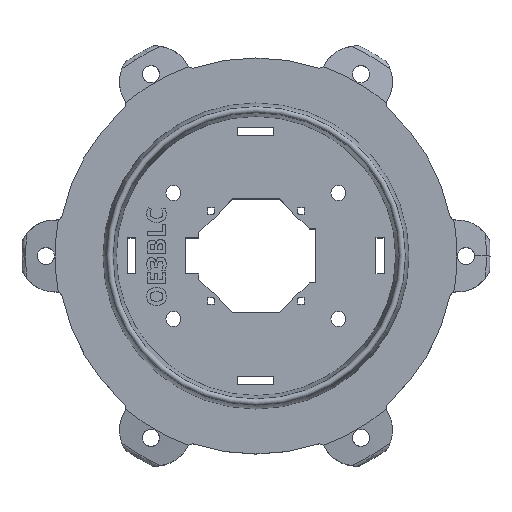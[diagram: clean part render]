
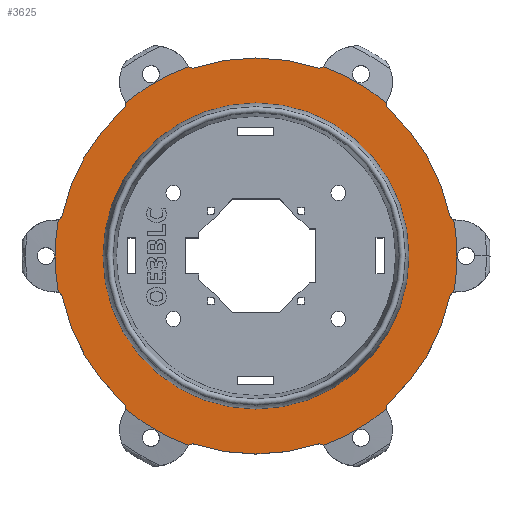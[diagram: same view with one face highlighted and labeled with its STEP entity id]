
A CAD part, top view. The second image highlights one B-rep face of the part: STEP entity #3625.
In plain terms, the highlighted planar face has unit normal (0, 0, 1).
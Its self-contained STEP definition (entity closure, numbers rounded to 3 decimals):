
#829 = EDGE_CURVE('',#830,#832,#834,.T.);
#830 = VERTEX_POINT('',#831);
#831 = CARTESIAN_POINT('',(20.532,62.725,4.));
#832 = VERTEX_POINT('',#833);
#833 = CARTESIAN_POINT('',(22.47,63.12,4.));
#834 = CIRCLE('',#835,2.);
#835 = AXIS2_PLACEMENT_3D('',#836,#837,#838);
#836 = CARTESIAN_POINT('',(21.154,64.626,4.));
#837 = DIRECTION('',(-0.,0.,1.));
#838 = DIRECTION('',(1.,0.,0.));
#867 = EDGE_CURVE('',#830,#868,#870,.T.);
#868 = VERTEX_POINT('',#869);
#869 = CARTESIAN_POINT('',(-20.532,62.725,4.));
#870 = CIRCLE('',#871,66.);
#871 = AXIS2_PLACEMENT_3D('',#872,#873,#874);
#872 = CARTESIAN_POINT('',(0.,0.,4.));
#873 = DIRECTION('',(-0.,0.,1.));
#874 = DIRECTION('',(1.,0.,0.));
#895 = VERTEX_POINT('',#896);
#896 = CARTESIAN_POINT('',(-22.47,63.12,4.));
#914 = EDGE_CURVE('',#895,#868,#915,.T.);
#915 = CIRCLE('',#916,2.);
#916 = AXIS2_PLACEMENT_3D('',#917,#918,#919);
#917 = CARTESIAN_POINT('',(-21.154,64.626,4.));
#918 = DIRECTION('',(-0.,0.,1.));
#919 = DIRECTION('',(1.,0.,0.));
#1098 = EDGE_CURVE('',#1099,#1101,#1103,.T.);
#1099 = VERTEX_POINT('',#1100);
#1100 = CARTESIAN_POINT('',(-44.055,49.144,4.));
#1101 = VERTEX_POINT('',#1102);
#1102 = CARTESIAN_POINT('',(-43.428,51.02,4.));
#1103 = CIRCLE('',#1104,2.);
#1104 = AXIS2_PLACEMENT_3D('',#1105,#1106,#1107);
#1105 = CARTESIAN_POINT('',(-45.39,50.633,4.));
#1106 = DIRECTION('',(0.,0.,1.));
#1107 = DIRECTION('',(0.5,0.866,0.));
#1136 = EDGE_CURVE('',#1099,#1137,#1139,.T.);
#1137 = VERTEX_POINT('',#1138);
#1138 = CARTESIAN_POINT('',(-64.588,13.581,4.));
#1139 = CIRCLE('',#1140,66.);
#1140 = AXIS2_PLACEMENT_3D('',#1141,#1142,#1143);
#1141 = CARTESIAN_POINT('',(0.,0.,4.));
#1142 = DIRECTION('',(0.,0.,1.));
#1143 = DIRECTION('',(0.5,0.866,0.));
#1164 = VERTEX_POINT('',#1165);
#1165 = CARTESIAN_POINT('',(-65.898,12.1,4.));
#1183 = EDGE_CURVE('',#1164,#1137,#1184,.T.);
#1184 = CIRCLE('',#1185,2.);
#1185 = AXIS2_PLACEMENT_3D('',#1186,#1187,#1188);
#1186 = CARTESIAN_POINT('',(-66.545,13.993,4.));
#1187 = DIRECTION('',(0.,0.,1.));
#1188 = DIRECTION('',(0.5,0.866,0.));
#1367 = EDGE_CURVE('',#1368,#1370,#1372,.T.);
#1368 = VERTEX_POINT('',#1369);
#1369 = CARTESIAN_POINT('',(-64.588,-13.581,4.));
#1370 = VERTEX_POINT('',#1371);
#1371 = CARTESIAN_POINT('',(-65.898,-12.1,4.));
#1372 = CIRCLE('',#1373,2.);
#1373 = AXIS2_PLACEMENT_3D('',#1374,#1375,#1376);
#1374 = CARTESIAN_POINT('',(-66.545,-13.993,4.));
#1375 = DIRECTION('',(0.,0.,1.));
#1376 = DIRECTION('',(-0.5,0.866,0.));
#1405 = EDGE_CURVE('',#1368,#1406,#1408,.T.);
#1406 = VERTEX_POINT('',#1407);
#1407 = CARTESIAN_POINT('',(-44.055,-49.144,4.));
#1408 = CIRCLE('',#1409,66.);
#1409 = AXIS2_PLACEMENT_3D('',#1410,#1411,#1412);
#1410 = CARTESIAN_POINT('',(0.,0.,4.));
#1411 = DIRECTION('',(0.,0.,1.));
#1412 = DIRECTION('',(-0.5,0.866,0.));
#1433 = VERTEX_POINT('',#1434);
#1434 = CARTESIAN_POINT('',(-43.428,-51.02,4.));
#1452 = EDGE_CURVE('',#1433,#1406,#1453,.T.);
#1453 = CIRCLE('',#1454,2.);
#1454 = AXIS2_PLACEMENT_3D('',#1455,#1456,#1457);
#1455 = CARTESIAN_POINT('',(-45.39,-50.633,4.));
#1456 = DIRECTION('',(0.,0.,1.));
#1457 = DIRECTION('',(-0.5,0.866,0.));
#1636 = EDGE_CURVE('',#1637,#1639,#1641,.T.);
#1637 = VERTEX_POINT('',#1638);
#1638 = CARTESIAN_POINT('',(-20.532,-62.725,4.));
#1639 = VERTEX_POINT('',#1640);
#1640 = CARTESIAN_POINT('',(-22.47,-63.12,4.));
#1641 = CIRCLE('',#1642,2.);
#1642 = AXIS2_PLACEMENT_3D('',#1643,#1644,#1645);
#1643 = CARTESIAN_POINT('',(-21.154,-64.626,4.));
#1644 = DIRECTION('',(0.,0.,1.));
#1645 = DIRECTION('',(-1.,0.,0.));
#1674 = EDGE_CURVE('',#1637,#1675,#1677,.T.);
#1675 = VERTEX_POINT('',#1676);
#1676 = CARTESIAN_POINT('',(20.532,-62.725,4.));
#1677 = CIRCLE('',#1678,66.);
#1678 = AXIS2_PLACEMENT_3D('',#1679,#1680,#1681);
#1679 = CARTESIAN_POINT('',(0.,0.,4.));
#1680 = DIRECTION('',(0.,0.,1.));
#1681 = DIRECTION('',(-1.,0.,0.));
#1702 = VERTEX_POINT('',#1703);
#1703 = CARTESIAN_POINT('',(22.47,-63.12,4.));
#1721 = EDGE_CURVE('',#1702,#1675,#1722,.T.);
#1722 = CIRCLE('',#1723,2.);
#1723 = AXIS2_PLACEMENT_3D('',#1724,#1725,#1726);
#1724 = CARTESIAN_POINT('',(21.154,-64.626,4.));
#1725 = DIRECTION('',(0.,0.,1.));
#1726 = DIRECTION('',(-1.,0.,0.));
#1905 = EDGE_CURVE('',#1906,#1908,#1910,.T.);
#1906 = VERTEX_POINT('',#1907);
#1907 = CARTESIAN_POINT('',(44.055,-49.144,4.));
#1908 = VERTEX_POINT('',#1909);
#1909 = CARTESIAN_POINT('',(43.428,-51.02,4.));
#1910 = CIRCLE('',#1911,2.);
#1911 = AXIS2_PLACEMENT_3D('',#1912,#1913,#1914);
#1912 = CARTESIAN_POINT('',(45.39,-50.633,4.));
#1913 = DIRECTION('',(0.,0.,1.));
#1914 = DIRECTION('',(-0.5,-0.866,0.));
#1943 = EDGE_CURVE('',#1906,#1944,#1946,.T.);
#1944 = VERTEX_POINT('',#1945);
#1945 = CARTESIAN_POINT('',(64.588,-13.581,4.));
#1946 = CIRCLE('',#1947,66.);
#1947 = AXIS2_PLACEMENT_3D('',#1948,#1949,#1950);
#1948 = CARTESIAN_POINT('',(0.,0.,4.));
#1949 = DIRECTION('',(0.,0.,1.));
#1950 = DIRECTION('',(-0.5,-0.866,0.));
#1969 = VERTEX_POINT('',#1970);
#1970 = CARTESIAN_POINT('',(65.898,-12.1,4.));
#1983 = EDGE_CURVE('',#1969,#1944,#1984,.T.);
#1984 = CIRCLE('',#1985,2.);
#1985 = AXIS2_PLACEMENT_3D('',#1986,#1987,#1988);
#1986 = CARTESIAN_POINT('',(66.545,-13.993,4.));
#1987 = DIRECTION('',(0.,0.,1.));
#1988 = DIRECTION('',(-0.5,-0.866,0.));
#1998 = EDGE_CURVE('',#1999,#2001,#2003,.T.);
#1999 = VERTEX_POINT('',#2000);
#2000 = CARTESIAN_POINT('',(64.588,13.581,4.));
#2001 = VERTEX_POINT('',#2002);
#2002 = CARTESIAN_POINT('',(65.898,12.1,4.));
#2003 = CIRCLE('',#2004,2.);
#2004 = AXIS2_PLACEMENT_3D('',#2005,#2006,#2007);
#2005 = CARTESIAN_POINT('',(66.545,13.993,4.));
#2006 = DIRECTION('',(0.,0.,1.));
#2007 = DIRECTION('',(0.5,-0.866,0.));
#2036 = EDGE_CURVE('',#1999,#2037,#2039,.T.);
#2037 = VERTEX_POINT('',#2038);
#2038 = CARTESIAN_POINT('',(44.055,49.144,4.));
#2039 = CIRCLE('',#2040,66.);
#2040 = AXIS2_PLACEMENT_3D('',#2041,#2042,#2043);
#2041 = CARTESIAN_POINT('',(0.,0.,4.));
#2042 = DIRECTION('',(0.,0.,1.));
#2043 = DIRECTION('',(0.5,-0.866,0.));
#2064 = VERTEX_POINT('',#2065);
#2065 = CARTESIAN_POINT('',(43.428,51.02,4.));
#2083 = EDGE_CURVE('',#2064,#2037,#2084,.T.);
#2084 = CIRCLE('',#2085,2.);
#2085 = AXIS2_PLACEMENT_3D('',#2086,#2087,#2088);
#2086 = CARTESIAN_POINT('',(45.39,50.633,4.));
#2087 = DIRECTION('',(0.,0.,1.));
#2088 = DIRECTION('',(0.5,-0.866,0.));
#3535 = VERTEX_POINT('',#3536);
#3536 = CARTESIAN_POINT('',(67.,0.,4.));
#3542 = EDGE_CURVE('',#3535,#1969,#3543,.T.);
#3543 = CIRCLE('',#3544,67.);
#3544 = AXIS2_PLACEMENT_3D('',#3545,#3546,#3547);
#3545 = CARTESIAN_POINT('',(0.,0.,4.));
#3546 = DIRECTION('',(0.,0.,-1.));
#3547 = DIRECTION('',(1.,0.,0.));
#3568 = EDGE_CURVE('',#2001,#3535,#3569,.T.);
#3569 = CIRCLE('',#3570,67.);
#3570 = AXIS2_PLACEMENT_3D('',#3571,#3572,#3573);
#3571 = CARTESIAN_POINT('',(0.,0.,4.));
#3572 = DIRECTION('',(0.,0.,-1.));
#3573 = DIRECTION('',(1.,0.,0.));
#3607 = EDGE_CURVE('',#832,#2064,#3608,.T.);
#3608 = CIRCLE('',#3609,67.);
#3609 = AXIS2_PLACEMENT_3D('',#3610,#3611,#3612);
#3610 = CARTESIAN_POINT('',(0.,0.,4.));
#3611 = DIRECTION('',(0.,0.,-1.));
#3612 = DIRECTION('',(1.,0.,0.));
#3625 = ADVANCED_FACE('',(#3626,#3677),#3688,.F.);
#3626 = FACE_BOUND('',#3627,.T.);
#3627 = EDGE_LOOP('',(#3628,#3629,#3630,#3631,#3632,#3633,#3634,#3635,
    #3636,#3637,#3644,#3645,#3646,#3647,#3654,#3655,#3656,#3657,#3664,
    #3665,#3666,#3667,#3674,#3675,#3676));
#3628 = ORIENTED_EDGE('',*,*,#3542,.F.);
#3629 = ORIENTED_EDGE('',*,*,#3568,.F.);
#3630 = ORIENTED_EDGE('',*,*,#1998,.F.);
#3631 = ORIENTED_EDGE('',*,*,#2036,.T.);
#3632 = ORIENTED_EDGE('',*,*,#2083,.F.);
#3633 = ORIENTED_EDGE('',*,*,#3607,.F.);
#3634 = ORIENTED_EDGE('',*,*,#829,.F.);
#3635 = ORIENTED_EDGE('',*,*,#867,.T.);
#3636 = ORIENTED_EDGE('',*,*,#914,.F.);
#3637 = ORIENTED_EDGE('',*,*,#3638,.F.);
#3638 = EDGE_CURVE('',#1101,#895,#3639,.T.);
#3639 = CIRCLE('',#3640,67.);
#3640 = AXIS2_PLACEMENT_3D('',#3641,#3642,#3643);
#3641 = CARTESIAN_POINT('',(0.,0.,4.));
#3642 = DIRECTION('',(0.,0.,-1.));
#3643 = DIRECTION('',(1.,0.,0.));
#3644 = ORIENTED_EDGE('',*,*,#1098,.F.);
#3645 = ORIENTED_EDGE('',*,*,#1136,.T.);
#3646 = ORIENTED_EDGE('',*,*,#1183,.F.);
#3647 = ORIENTED_EDGE('',*,*,#3648,.F.);
#3648 = EDGE_CURVE('',#1370,#1164,#3649,.T.);
#3649 = CIRCLE('',#3650,67.);
#3650 = AXIS2_PLACEMENT_3D('',#3651,#3652,#3653);
#3651 = CARTESIAN_POINT('',(0.,0.,4.));
#3652 = DIRECTION('',(0.,0.,-1.));
#3653 = DIRECTION('',(1.,0.,0.));
#3654 = ORIENTED_EDGE('',*,*,#1367,.F.);
#3655 = ORIENTED_EDGE('',*,*,#1405,.T.);
#3656 = ORIENTED_EDGE('',*,*,#1452,.F.);
#3657 = ORIENTED_EDGE('',*,*,#3658,.F.);
#3658 = EDGE_CURVE('',#1639,#1433,#3659,.T.);
#3659 = CIRCLE('',#3660,67.);
#3660 = AXIS2_PLACEMENT_3D('',#3661,#3662,#3663);
#3661 = CARTESIAN_POINT('',(0.,0.,4.));
#3662 = DIRECTION('',(0.,0.,-1.));
#3663 = DIRECTION('',(1.,0.,0.));
#3664 = ORIENTED_EDGE('',*,*,#1636,.F.);
#3665 = ORIENTED_EDGE('',*,*,#1674,.T.);
#3666 = ORIENTED_EDGE('',*,*,#1721,.F.);
#3667 = ORIENTED_EDGE('',*,*,#3668,.F.);
#3668 = EDGE_CURVE('',#1908,#1702,#3669,.T.);
#3669 = CIRCLE('',#3670,67.);
#3670 = AXIS2_PLACEMENT_3D('',#3671,#3672,#3673);
#3671 = CARTESIAN_POINT('',(0.,0.,4.));
#3672 = DIRECTION('',(0.,0.,-1.));
#3673 = DIRECTION('',(1.,0.,0.));
#3674 = ORIENTED_EDGE('',*,*,#1905,.F.);
#3675 = ORIENTED_EDGE('',*,*,#1943,.T.);
#3676 = ORIENTED_EDGE('',*,*,#1983,.F.);
#3677 = FACE_BOUND('',#3678,.T.);
#3678 = EDGE_LOOP('',(#3679));
#3679 = ORIENTED_EDGE('',*,*,#3680,.T.);
#3680 = EDGE_CURVE('',#3681,#3681,#3683,.T.);
#3681 = VERTEX_POINT('',#3682);
#3682 = CARTESIAN_POINT('',(51.,0.,4.));
#3683 = CIRCLE('',#3684,51.);
#3684 = AXIS2_PLACEMENT_3D('',#3685,#3686,#3687);
#3685 = CARTESIAN_POINT('',(0.,0.,4.));
#3686 = DIRECTION('',(0.,0.,-1.));
#3687 = DIRECTION('',(1.,0.,0.));
#3688 = PLANE('',#3689);
#3689 = AXIS2_PLACEMENT_3D('',#3690,#3691,#3692);
#3690 = CARTESIAN_POINT('',(0.,0.,4.));
#3691 = DIRECTION('',(-0.,0.,-1.));
#3692 = DIRECTION('',(1.,0.,0.));
